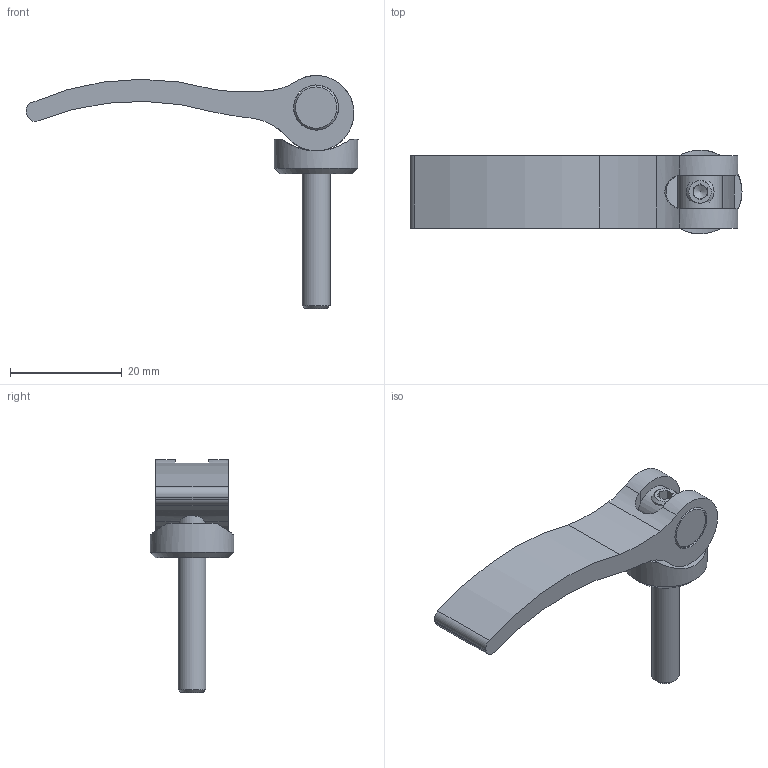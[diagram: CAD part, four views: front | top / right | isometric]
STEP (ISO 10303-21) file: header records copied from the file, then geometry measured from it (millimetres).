
FILE_DESCRIPTION(('STEP AP203'), '1');
FILE_NAME('À00360.11590520 _ Ýêñöåíòðèê 59 ìì', '', ('UNSPECIFIED'), ('UNSPECIFIED'), 'C3D Converter', 'C3D Toolkit', '');
FILE_SCHEMA(('CONFIG_CONTROL_DESIGN'));
Length unit declared in the file: millimetre
Products named in the file (5): А00360.59.03; А00360.59.02; А00360.59.01
Assembly tree (4 placements, depth 2):
  (unnamed)
    А00360.59.03
    А00360.59.02
    А00360.59.01
    (unnamed)
Bounding box: 59.48 x 14.99 x 41.75 mm (x, y, z)
Volume: 5187.8 mm3; surface area: 4241.8 mm2
Topology: 4 solids, 4 shells, 49 faces, 123 edges, 80 vertices
Faces by surface type: plane 24, cylinder 19, cone 6
Full cylindrical faces by diameter (mm): 4.134 x1, 5 x1, 5.5 x1, 8 x1, 8.1 x2, 15 x1
Entity records: 2556 total; most frequent: CARTESIAN_POINT 1041, DIRECTION 254, ORIENTED_EDGE 218, EDGE_CURVE 109, AXIS2_PLACEMENT_3D 105, VERTEX_POINT 79, EDGE_LOOP 68, FACE_BOUND 57
